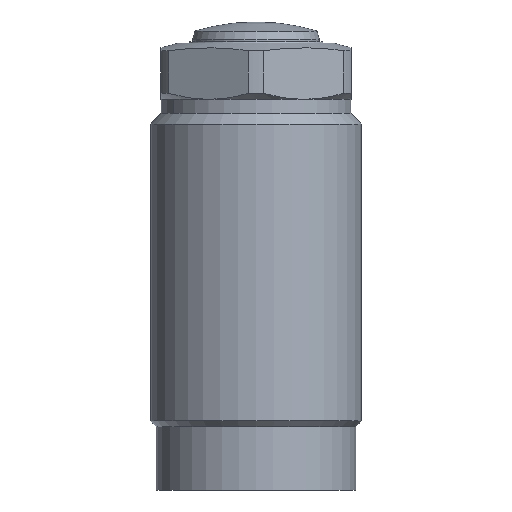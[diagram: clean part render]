
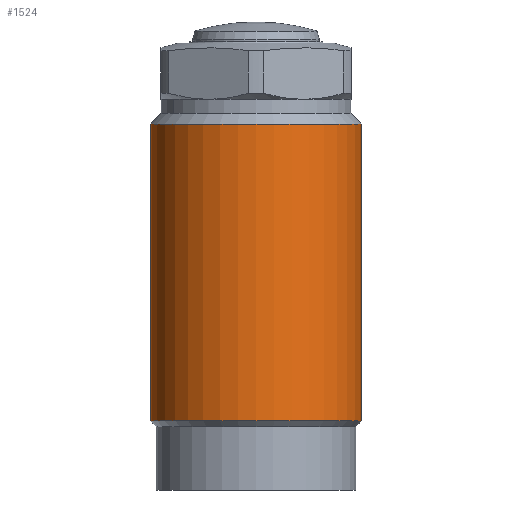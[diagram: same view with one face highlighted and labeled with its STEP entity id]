
A CAD part, front view. The second image highlights one B-rep face of the part: STEP entity #1524.
In plain terms, the highlighted cylindrical face has radius 15 mm (diameter 30 mm), a partial arc.
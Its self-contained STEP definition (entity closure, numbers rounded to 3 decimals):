
#1461=CARTESIAN_POINT('',(-15.0,0.0,-53.65));
#1462=VERTEX_POINT('',#1461);
#1470=CARTESIAN_POINT('',(15.0,0.0,-53.65));
#1471=VERTEX_POINT('',#1470);
#1478=CARTESIAN_POINT('',(0.0,0.0,-53.65));
#1479=DIRECTION('',(0.0,0.0,1.0));
#1480=DIRECTION('',(1.0,0.0,0.0));
#1481=AXIS2_PLACEMENT_3D('',#1478,#1479,#1480);
#1482=CIRCLE('',#1481,15.0);
#1483=EDGE_CURVE('no 2008',#1462,#1471,#1482,.T.);
#1493=CARTESIAN_POINT('',(-15.0,0.0,-11.5));
#1494=VERTEX_POINT('',#1493);
#1495=CARTESIAN_POINT('',(-15.0,0.0,-53.65));
#1496=DIRECTION('',(0.0,-0.0,1.0));
#1497=VECTOR('',#1496,1.0);
#1498=LINE('',#1495,#1497);
#1499=EDGE_CURVE('no 2018',#1462,#1494,#1498,.T.);
#1500=ORIENTED_EDGE('',*,*,#1499,.F.);
#1501=ORIENTED_EDGE('',*,*,#1483,.T.);
#1502=CARTESIAN_POINT('',(15.0,0.0,-11.5));
#1503=VERTEX_POINT('',#1502);
#1504=CARTESIAN_POINT('',(15.0,0.0,-53.65));
#1505=DIRECTION('',(0.0,0.0,1.0));
#1506=VECTOR('',#1505,1.0);
#1507=LINE('',#1504,#1506);
#1508=EDGE_CURVE('no 2026',#1471,#1503,#1507,.T.);
#1509=ORIENTED_EDGE('',*,*,#1508,.T.);
#1510=CARTESIAN_POINT('',(0.0,0.0,-11.5));
#1511=DIRECTION('',(0.0,0.0,1.0));
#1512=DIRECTION('',(1.0,0.0,0.0));
#1513=AXIS2_PLACEMENT_3D('',#1510,#1511,#1512);
#1514=CIRCLE('',#1513,15.0);
#1515=EDGE_CURVE('no 2030',#1494,#1503,#1514,.T.);
#1516=ORIENTED_EDGE('',*,*,#1515,.F.);
#1517=EDGE_LOOP('',(#1500,#1501,#1509,#1516));
#1518=FACE_OUTER_BOUND('',#1517,.T.);
#1519=CARTESIAN_POINT('',(0.0,0.0,3.903));
#1520=DIRECTION('',(0.0,0.0,1.0));
#1521=DIRECTION('',(0.0,1.0,0.0));
#1522=AXIS2_PLACEMENT_3D('',#1519,#1520,#1521);
#1523=CYLINDRICAL_SURFACE('',#1522,15.0);
#1524=ADVANCED_FACE('no 2011',(#1518),#1523,.T.);
